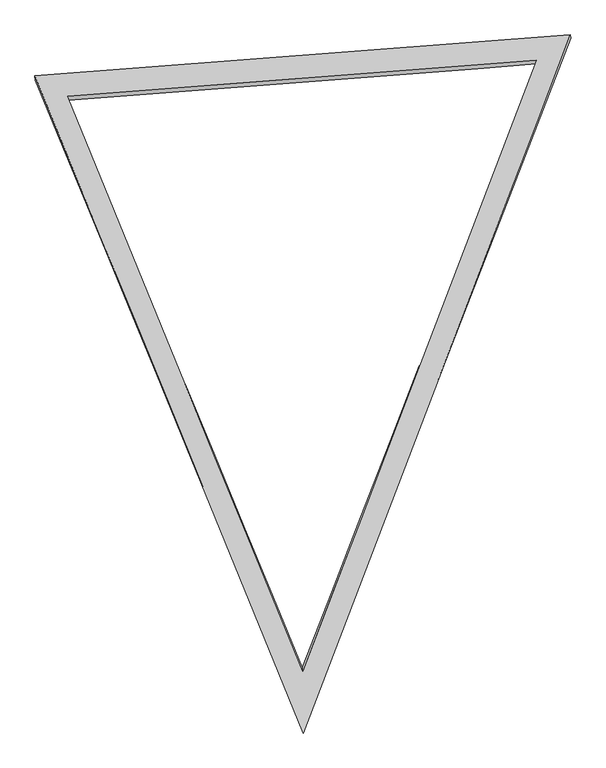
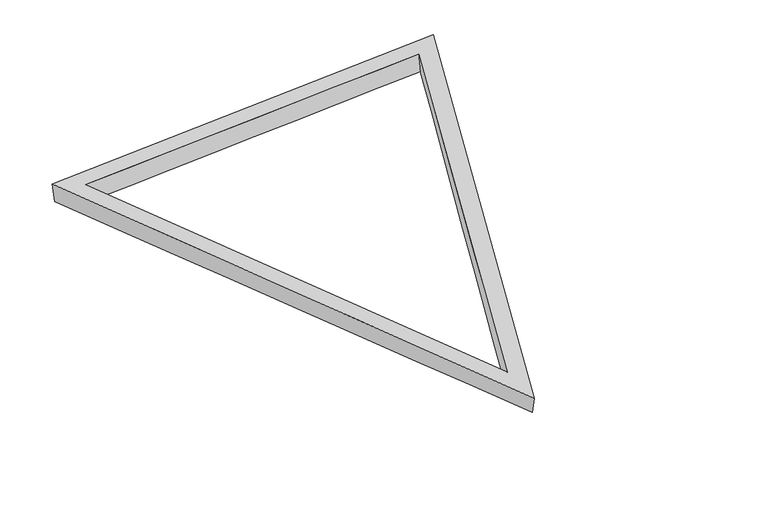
"""IFC4 building model written with IfcOpenShell, lengths in millimetres: plate geometry."""

from ifc_helpers import new_model, si_unit, frame, origin, place, context, project, spatial, source, transform, mapped, element, save
from ifc_brep_helpers import plane_surface, spline_surface, advanced_brep


def plate_697abbc0(model_context):
    return source(origin(), model_context, "Body", "AdvancedBrep", [
        advanced_brep(
        [(3996.6562314, 6708.4325409, 0.0), (3992.6280015, 6747.6665086, 199.3400109), (6091.702117, 1605.405287, 200.1190354), (6090.1166941, 1634.9735381, 0.0), (8182.7964493, 7067.6165865, 200.5765687), (8183.5771567, 7035.0268894, 0.0), (6096.0, 1087.9882295, 0.0), (8489.7868765, 7262.729561, 0.0), (8487.296278, 7294.6588923, 200.6602968), (6097.7631734, 1052.8865713, 200.1374648), (3702.2131235, 6889.2822095, 0.0), (3699.1114195, 6929.0458775, 199.2472588)],
        [
            (0, 1),
            (1, 2),
            (2, 3),
            (3, 0),
            (2, 4),
            (4, 5),
            (5, 3),
            (0, 5),
            (4, 1),
            (6, 7),
            (7, 8),
            (8, 9),
            (9, 6),
            (7, 10),
            (10, 11),
            (11, 8),
            (9, 11),
            (10, 6),
        ],
        [
            spline_surface(1, 1, [[(3996.6562314, 6708.4325409, 0.0), (6090.1166941, 1634.9735381, 0.0)], [(3992.6280015, 6747.6665086, 199.3400109), (6091.702117, 1605.405287, 200.1190354)]], [2, 2], [2, 2], [0.0, 1.0], [0.0, 1.0]),
            spline_surface(1, 1, [[(6090.1166941, 1634.9735381, 0.0), (8183.5771567, 7035.0268894, 0.0)], [(6091.702117, 1605.405287, 200.1190354), (8182.7964493, 7067.6165865, 200.5765687)]], [2, 2], [2, 2], [0.0, 1.0], [0.0, 1.0]),
            spline_surface(1, 1, [[(8183.5771567, 7035.0268894, 0.0), (3996.6562314, 6708.4325409, 0.0)], [(8182.7964493, 7067.6165865, 200.5765687), (3992.6280015, 6747.6665086, 199.3400109)]], [2, 2], [2, 2], [0.0, 1.0], [0.0, 1.0]),
            spline_surface(1, 1, [[(6096.0, 1087.9882295, 0.0), (6097.7631734, 1052.8865713, 200.1374648)], [(8489.7868765, 7262.729561, 0.0), (8487.296278, 7294.6588923, 200.6602968)]], [2, 2], [2, 2], [0.0, 1.0], [0.0, 1.0]),
            spline_surface(1, 1, [[(8489.7868765, 7262.729561, 0.0), (8487.296278, 7294.6588923, 200.6602968)], [(3702.2131235, 6889.2822095, 0.0), (3699.1114195, 6929.0458775, 199.2472588)]], [2, 2], [2, 2], [0.0, 1.0], [0.0, 1.0]),
            spline_surface(1, 1, [[(3702.2131235, 6889.2822095, 0.0), (3699.1114195, 6929.0458775, 199.2472588)], [(6096.0, 1087.9882295, 0.0), (6097.7631734, 1052.8865713, 200.1374648)]], [2, 2], [2, 2], [0.0, 1.0], [0.0, 1.0]),
            plane_surface(frame((6094.7236236, 5092.1971137, 200.0150068), z_axis=(-0.00029740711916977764, 3.00927586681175e-05, 0.9999999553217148), x_axis=(0.3779266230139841, -0.9258355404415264, 0.0001402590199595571))),
            plane_surface(frame((6096.0, 5080.0, 0.0), z_axis=(0.0, 0.0, -1.0), x_axis=(-0.38143347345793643, 0.9243962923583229, 0.0))),
        ],
        [
            (0, [[1, 2, 3, 4]]),
            (1, [[-3, 5, 6, 7]]),
            (2, [[-1, 8, -6, 9]]),
            (3, [[10, 11, 12, 13]]),
            (4, [[-11, 14, 15, 16]]),
            (5, [[-13, 17, -15, 18]]),
            (6, [[-12, -16, -17], [-2, -9, -5]]),
            (7, [[-10, -18, -14], [-4, -7, -8]]),
        ],
    ),
    ])


if __name__ == "__main__":
    model = new_model("IFC4")
    model_context = context("Model", 3, world=origin())
    ifc_project = project(units=[si_unit("LENGTHUNIT", "METRE", prefix="MILLI")], contexts=[model_context])
    site = spatial("IfcSite", under=ifc_project)
    building = spatial("IfcBuilding", under=site)
    placement = place(None, origin())
    plate_shape = plate_697abbc0(model_context)
    element("IfcPlate", 1, ObjectType="tn_cpanel_patbase_triangle_flat_seamless_frame_02_cylinder : tn_triangle_seamless_frame_t8\"xh8\"", at=placement, inside=building, context=model_context, shape_type="MappedRepresentation", body=[
        mapped(plate_shape, transform((0.0, 0.0, 0.0), x_axis=(1.0, 0.0, 0.0), y_axis=(0.0, 1.0, 0.0), z_axis=(0.0, 0.0, 1.0))),
    ])
    save(model, "model.ifc")
